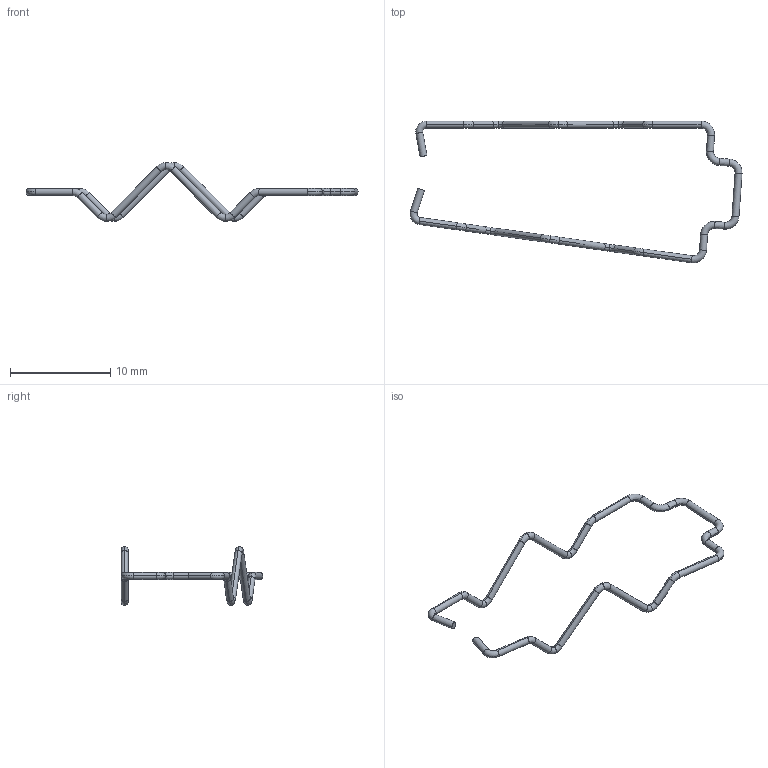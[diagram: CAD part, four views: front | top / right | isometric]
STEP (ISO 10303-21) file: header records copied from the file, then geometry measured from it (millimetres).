
FILE_DESCRIPTION (( 'STEP AP214' ), '1' );
FILE_NAME ('SDI CLIP LM(SR27M)8.383.630.00SW.STEP', '2024-11-08T01:13:56', ( 'admin' ), ( '' ), 'SwSTEP 2.0', 'SolidWorks 2022', '' );
FILE_SCHEMA (( 'AUTOMOTIVE_DESIGN' ));
Length unit declared in the file: millimetre
Products named in the file (1): SDI CLIP LM(SR27M)8.383.630.00SW
Bounding box: 33.16 x 14.15 x 5.87 mm (x, y, z)
Volume: 35.9 mm3; surface area: 205.9 mm2
Topology: 1 solids, 1 shells, 88 faces, 182 edges, 96 vertices
Faces by surface type: torus 48, cylinder 38, plane 2
Entity records: 2356 total; most frequent: DIRECTION 504, CARTESIAN_POINT 367, ORIENTED_EDGE 364, AXIS2_PLACEMENT_3D 233, EDGE_CURVE 182, CIRCLE 144, VERTEX_POINT 96, FACE_OUTER_BOUND 88
